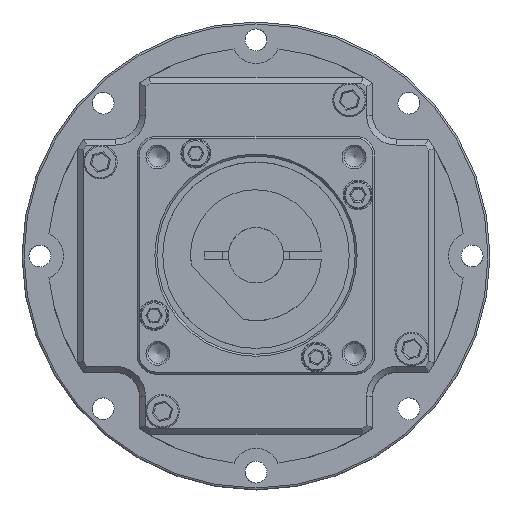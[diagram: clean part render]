
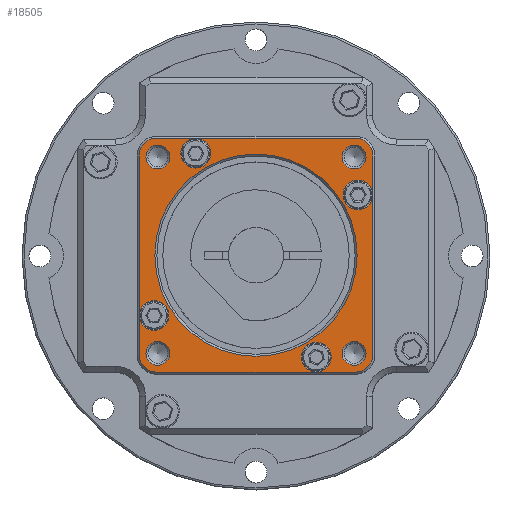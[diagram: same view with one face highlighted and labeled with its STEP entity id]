
A CAD part, top view. The second image highlights one B-rep face of the part: STEP entity #18505.
In plain terms, the highlighted planar face has unit normal (0, 0, 1).
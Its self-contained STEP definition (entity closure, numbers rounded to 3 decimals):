
#17459=CARTESIAN_POINT('',(29.5,-25.,69.377));
#17460=VERTEX_POINT('',#17459);
#17468=CARTESIAN_POINT('',(29.5,25.,69.377));
#17469=VERTEX_POINT('',#17468);
#17476=CARTESIAN_POINT('',(29.5,25.,69.377));
#17477=DIRECTION('',(0.0,-1.0,0.0));
#17478=VECTOR('',#17477,50.0);
#17479=LINE('',#17476,#17478);
#17480=EDGE_CURVE('',#17469,#17460,#17479,.T.);
#17492=CARTESIAN_POINT('',(25.,29.5,69.377));
#17493=VERTEX_POINT('',#17492);
#17500=CARTESIAN_POINT('',(25.,25.,69.377));
#17501=DIRECTION('',(0.0,0.0,-1.0));
#17502=DIRECTION('',(1.0,0.0,0.0));
#17503=AXIS2_PLACEMENT_3D('',#17500,#17501,#17502);
#17504=CIRCLE('',#17503,4.5);
#17505=EDGE_CURVE('',#17493,#17469,#17504,.T.);
#17516=CARTESIAN_POINT('',(25.,-29.5,69.377));
#17517=VERTEX_POINT('',#17516);
#17518=CARTESIAN_POINT('',(25.,-25.,69.377));
#17519=DIRECTION('',(0.0,0.0,-1.0));
#17520=DIRECTION('',(0.0,-1.0,0.0));
#17521=AXIS2_PLACEMENT_3D('',#17518,#17519,#17520);
#17522=CIRCLE('',#17521,4.5);
#17523=EDGE_CURVE('',#17460,#17517,#17522,.T.);
#17550=CARTESIAN_POINT('',(-25.,29.5,69.377));
#17551=VERTEX_POINT('',#17550);
#17558=CARTESIAN_POINT('',(-25.,29.5,69.377));
#17559=DIRECTION('',(1.0,0.0,0.0));
#17560=VECTOR('',#17559,50.);
#17561=LINE('',#17558,#17560);
#17562=EDGE_CURVE('',#17551,#17493,#17561,.T.);
#17573=CARTESIAN_POINT('',(-25.,-29.5,69.377));
#17574=VERTEX_POINT('',#17573);
#17575=CARTESIAN_POINT('',(25.,-29.5,69.377));
#17576=DIRECTION('',(-1.0,0.0,0.0));
#17577=VECTOR('',#17576,50.0);
#17578=LINE('',#17575,#17577);
#17579=EDGE_CURVE('',#17517,#17574,#17578,.T.);
#17605=CARTESIAN_POINT('',(-29.5,25.,69.377));
#17606=VERTEX_POINT('',#17605);
#17613=CARTESIAN_POINT('',(-25.,25.,69.377));
#17614=DIRECTION('',(0.0,0.0,-1.0));
#17615=DIRECTION('',(0.0,1.0,0.0));
#17616=AXIS2_PLACEMENT_3D('',#17613,#17614,#17615);
#17617=CIRCLE('',#17616,4.5);
#17618=EDGE_CURVE('',#17606,#17551,#17617,.T.);
#17629=CARTESIAN_POINT('',(-29.5,-25.,69.377));
#17630=VERTEX_POINT('',#17629);
#17631=CARTESIAN_POINT('',(-25.,-25.,69.377));
#17632=DIRECTION('',(0.0,0.0,-1.0));
#17633=DIRECTION('',(-1.0,0.0,0.0));
#17634=AXIS2_PLACEMENT_3D('',#17631,#17632,#17633);
#17635=CIRCLE('',#17634,4.5);
#17636=EDGE_CURVE('',#17574,#17630,#17635,.T.);
#17662=CARTESIAN_POINT('',(-29.5,-25.,69.377));
#17663=DIRECTION('',(0.0,1.0,0.0));
#17664=VECTOR('',#17663,50.0);
#17665=LINE('',#17662,#17664);
#17666=EDGE_CURVE('',#17630,#17606,#17665,.T.);
#18127=CARTESIAN_POINT('',(0.,25.5,69.377));
#18128=VERTEX_POINT('',#18127);
#18129=CARTESIAN_POINT('',(0.,0.,69.377));
#18130=DIRECTION('',(0.0,0.0,1.0));
#18131=DIRECTION('',(0.0,-1.0,0.0));
#18132=AXIS2_PLACEMENT_3D('',#18129,#18130,#18131);
#18133=CIRCLE('',#18132,25.5);
#18134=EDGE_CURVE('',#18128,#18128,#18133,.T.);
#18167=CARTESIAN_POINT('',(-15.2,29.452,69.377));
#18168=VERTEX_POINT('',#18167);
#18169=CARTESIAN_POINT('',(-15.2,25.702,69.377));
#18170=DIRECTION('',(0.0,0.0,-1.0));
#18171=DIRECTION('',(0.0,-1.0,0.0));
#18172=AXIS2_PLACEMENT_3D('',#18169,#18170,#18171);
#18173=CIRCLE('',#18172,3.75);
#18174=EDGE_CURVE('',#18168,#18168,#18173,.T.);
#18215=CARTESIAN_POINT('',(-29.452,-15.2,69.377));
#18216=VERTEX_POINT('',#18215);
#18217=CARTESIAN_POINT('',(-25.702,-15.2,69.377));
#18218=DIRECTION('',(0.0,0.0,-1.0));
#18219=DIRECTION('',(1.0,0.0,0.0));
#18220=AXIS2_PLACEMENT_3D('',#18217,#18218,#18219);
#18221=CIRCLE('',#18220,3.75);
#18222=EDGE_CURVE('',#18216,#18216,#18221,.T.);
#18255=CARTESIAN_POINT('',(15.2,-29.452,69.377));
#18256=VERTEX_POINT('',#18255);
#18257=CARTESIAN_POINT('',(15.2,-25.702,69.377));
#18258=DIRECTION('',(0.0,0.0,-1.0));
#18259=DIRECTION('',(0.0,1.0,0.0));
#18260=AXIS2_PLACEMENT_3D('',#18257,#18258,#18259);
#18261=CIRCLE('',#18260,3.75);
#18262=EDGE_CURVE('',#18256,#18256,#18261,.T.);
#18303=CARTESIAN_POINT('',(29.452,15.2,69.377));
#18304=VERTEX_POINT('',#18303);
#18305=CARTESIAN_POINT('',(25.702,15.2,69.377));
#18306=DIRECTION('',(0.0,0.0,-1.0));
#18307=DIRECTION('',(-1.0,0.0,0.0));
#18308=AXIS2_PLACEMENT_3D('',#18305,#18306,#18307);
#18309=CIRCLE('',#18308,3.75);
#18310=EDGE_CURVE('',#18304,#18304,#18309,.T.);
#18343=CARTESIAN_POINT('',(-21.749,-24.749,69.377));
#18344=VERTEX_POINT('',#18343);
#18345=CARTESIAN_POINT('',(-24.749,-24.749,69.377));
#18346=DIRECTION('',(0.0,0.0,1.0));
#18347=DIRECTION('',(-1.0,0.0,0.0));
#18348=AXIS2_PLACEMENT_3D('',#18345,#18346,#18347);
#18349=CIRCLE('',#18348,3.);
#18350=EDGE_CURVE('',#18344,#18344,#18349,.T.);
#18383=CARTESIAN_POINT('',(-24.749,21.749,69.377));
#18384=VERTEX_POINT('',#18383);
#18385=CARTESIAN_POINT('',(-24.749,24.749,69.377));
#18386=DIRECTION('',(0.0,0.0,1.0));
#18387=DIRECTION('',(0.0,1.0,0.0));
#18388=AXIS2_PLACEMENT_3D('',#18385,#18386,#18387);
#18389=CIRCLE('',#18388,3.);
#18390=EDGE_CURVE('',#18384,#18384,#18389,.T.);
#18423=CARTESIAN_POINT('',(24.749,-21.749,69.377));
#18424=VERTEX_POINT('',#18423);
#18425=CARTESIAN_POINT('',(24.749,-24.749,69.377));
#18426=DIRECTION('',(0.0,0.0,1.0));
#18427=DIRECTION('',(0.0,-1.0,0.0));
#18428=AXIS2_PLACEMENT_3D('',#18425,#18426,#18427);
#18429=CIRCLE('',#18428,3.);
#18430=EDGE_CURVE('',#18424,#18424,#18429,.T.);
#18455=CARTESIAN_POINT('',(0.,0.,69.377));
#18456=DIRECTION('',(0.0,0.0,1.0));
#18457=DIRECTION('',(0.0,1.0,0.0));
#18458=AXIS2_PLACEMENT_3D('',#18455,#18456,#18457);
#18459=PLANE('',#18458);
#18460=ORIENTED_EDGE('',*,*,#17666,.F.);
#18461=ORIENTED_EDGE('',*,*,#17636,.F.);
#18462=ORIENTED_EDGE('',*,*,#17579,.F.);
#18463=ORIENTED_EDGE('',*,*,#17523,.F.);
#18464=ORIENTED_EDGE('',*,*,#17480,.F.);
#18465=ORIENTED_EDGE('',*,*,#17505,.F.);
#18466=ORIENTED_EDGE('',*,*,#17562,.F.);
#18467=ORIENTED_EDGE('',*,*,#17618,.F.);
#18468=EDGE_LOOP('',(#18460,#18461,#18462,#18463,#18464,#18465,#18466,#18467));
#18469=FACE_OUTER_BOUND('',#18468,.T.);
#18470=ORIENTED_EDGE('',*,*,#18430,.F.);
#18471=EDGE_LOOP('',(#18470));
#18472=FACE_BOUND('',#18471,.T.);
#18473=ORIENTED_EDGE('',*,*,#18350,.F.);
#18474=EDGE_LOOP('',(#18473));
#18475=FACE_BOUND('',#18474,.T.);
#18476=ORIENTED_EDGE('',*,*,#18310,.T.);
#18477=EDGE_LOOP('',(#18476));
#18478=FACE_BOUND('',#18477,.T.);
#18479=ORIENTED_EDGE('',*,*,#18262,.T.);
#18480=EDGE_LOOP('',(#18479));
#18481=FACE_BOUND('',#18480,.T.);
#18482=ORIENTED_EDGE('',*,*,#18222,.T.);
#18483=EDGE_LOOP('',(#18482));
#18484=FACE_BOUND('',#18483,.T.);
#18485=ORIENTED_EDGE('',*,*,#18174,.T.);
#18486=EDGE_LOOP('',(#18485));
#18487=FACE_BOUND('',#18486,.T.);
#18488=ORIENTED_EDGE('',*,*,#18134,.F.);
#18489=EDGE_LOOP('',(#18488));
#18490=FACE_BOUND('',#18489,.T.);
#18491=ORIENTED_EDGE('',*,*,#18390,.F.);
#18492=EDGE_LOOP('',(#18491));
#18493=FACE_BOUND('',#18492,.T.);
#18494=CARTESIAN_POINT('',(21.749,24.749,69.377));
#18495=VERTEX_POINT('',#18494);
#18496=CARTESIAN_POINT('',(24.749,24.749,69.377));
#18497=DIRECTION('',(0.0,0.0,1.0));
#18498=DIRECTION('',(1.0,0.0,0.0));
#18499=AXIS2_PLACEMENT_3D('',#18496,#18497,#18498);
#18500=CIRCLE('',#18499,3.);
#18501=EDGE_CURVE('',#18495,#18495,#18500,.T.);
#18502=ORIENTED_EDGE('',*,*,#18501,.F.);
#18503=EDGE_LOOP('',(#18502));
#18504=FACE_BOUND('',#18503,.T.);
#18505=ADVANCED_FACE('',(#18469,#18472,#18475,#18478,#18481,#18484,#18487,#18490,#18493,#18504),#18459,.T.);
